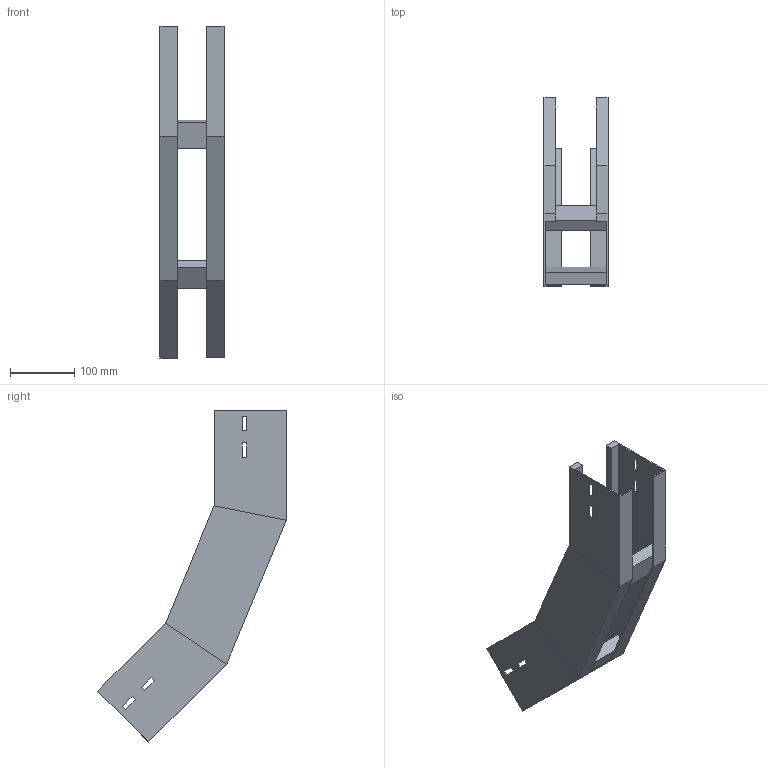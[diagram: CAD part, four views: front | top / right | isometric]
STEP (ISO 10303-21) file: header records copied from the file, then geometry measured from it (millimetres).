
FILE_DESCRIPTION (( 'STEP AP214' ), '1' );
FILE_NAME ('B2X31B5J100XX.step', '2025-03-20T10:08:12', ( '' ), ( '' ), 'SwSTEP 2.0', 'SolidWorks 2023', '' );
FILE_SCHEMA (( 'AUTOMOTIVE_DESIGN' ));
Length unit declared in the file: millimetre
Products named in the file (3): LONGH.SALITA_45°_H112.5_R500; TRAVERSINO_100; B2X31B5J100XX
Assembly tree (4 placements, depth 2):
  B2X31B5J100XX
    LONGH.SALITA_45°_H112.5_R500  x2
    TRAVERSINO_100  x2
Bounding box: 100 x 294.27 x 518.39 mm (x, y, z)
Volume: 648835.9 mm3; surface area: 366104 mm2
Topology: 4 solids, 4 shells, 96 faces, 232 edges, 144 vertices
Faces by surface type: plane 96
Entity records: 1472 total; most frequent: CARTESIAN_POINT 243, ORIENTED_EDGE 232, DIRECTION 226, VECTOR 116, LINE 116, EDGE_CURVE 116, VERTEX_POINT 72, EDGE_LOOP 56
